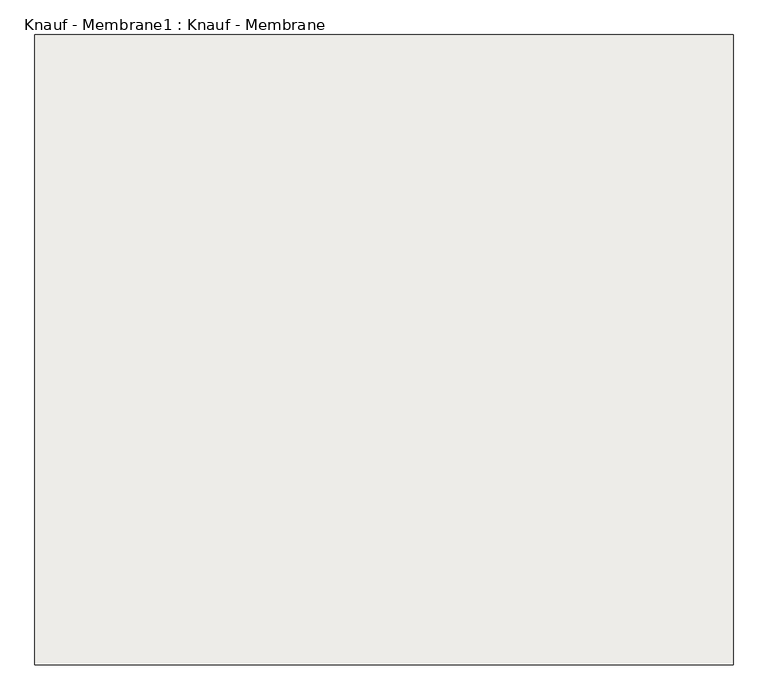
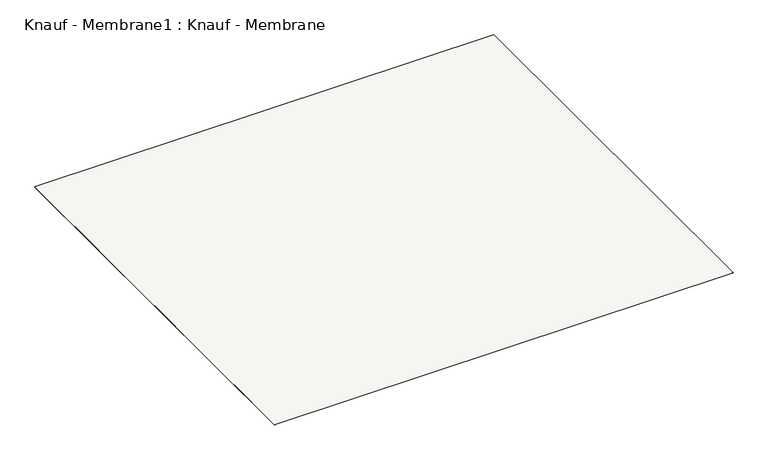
"""IFC4 building model written with IfcOpenShell, lengths in millimetres: slab geometry, Knauf - Membrane1 : Knauf - Membrane."""

from ifc_helpers import new_model, si_unit, frame, origin, place, context, project, spatial, polyline, outline, extrude, source, transform, mapped, element, save


def knauf_membrane1_knauf_membrane_339932bd(model_context):
    return source(origin(), model_context, "Body", "SweptSolid", [
        extrude(outline(polyline([(18766.285179, 16926.9464372), (20566.285179, 16926.9464372), (20566.285179, 15301.9464372), (18766.285179, 15301.9464372), (18766.285179, 16926.9464372)])), frame((0.0, 0.0, 14.0), z_axis=(0.0, 0.0, 1.0), x_axis=(1.0, 0.0, 0.0)), (0.0, 0.0, 1.0), 1.0),
    ])


if __name__ == "__main__":
    model = new_model("IFC4")
    model_context = context("Model", 3, world=origin())
    ifc_project = project(units=[si_unit("LENGTHUNIT", "METRE", prefix="MILLI")], contexts=[model_context])
    site = spatial("IfcSite", under=ifc_project)
    building = spatial("IfcBuilding", under=site)
    placement = place(None, origin())
    knauf_membrane1_knauf_membrane_shape = knauf_membrane1_knauf_membrane_339932bd(model_context)
    element("IfcSlab", 1, ObjectType="Knauf - Membrane1 : Knauf - Membrane", at=placement, inside=building, context=model_context, shape_type="MappedRepresentation", body=[
        mapped(knauf_membrane1_knauf_membrane_shape, transform((0.0, 0.0, 0.0), x_axis=(1.0, 0.0, 0.0), y_axis=(0.0, 1.0, 0.0), z_axis=(0.0, 0.0, 1.0))),
    ])
    save(model, "model.ifc")
